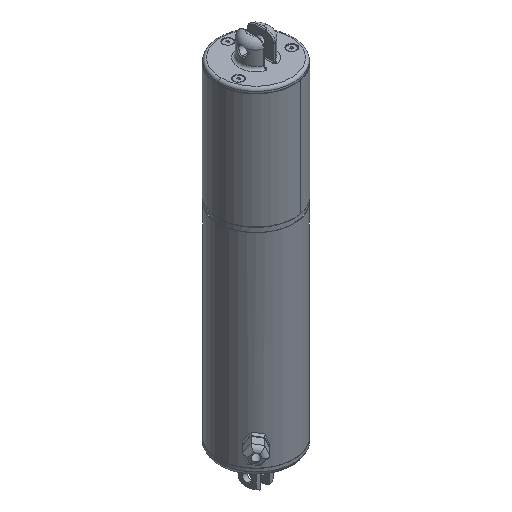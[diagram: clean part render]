
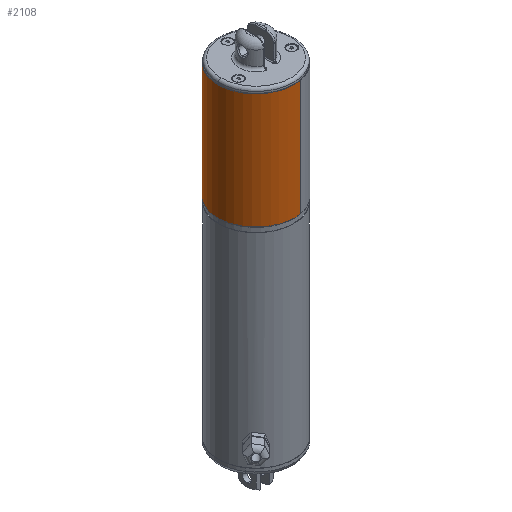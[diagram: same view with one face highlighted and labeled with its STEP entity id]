
A CAD part, isometric view. The second image highlights one B-rep face of the part: STEP entity #2108.
In plain terms, the highlighted cylindrical face has radius 43 mm (diameter 86 mm), a partial arc.
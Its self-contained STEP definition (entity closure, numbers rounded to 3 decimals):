
#25 = EDGE_CURVE ( 'NONE', #1930, #6028, #3221, .T. ) ;
#43 = EDGE_CURVE ( 'NONE', #168, #6028, #3286, .T. ) ;
#127 = CARTESIAN_POINT ( 'NONE',  ( 0., 0., 148.9 ) ) ;
#154 = AXIS2_PLACEMENT_3D ( 'NONE', #348, #2201, #763 ) ;
#168 = VERTEX_POINT ( 'NONE', #3400 ) ;
#270 = CARTESIAN_POINT ( 'NONE',  ( -8.077, 42.235, 8.4 ) ) ;
#348 = CARTESIAN_POINT ( 'NONE',  ( 0., 0., 138.9 ) ) ;
#436 = CARTESIAN_POINT ( 'NONE',  ( 8.077, -42.235, 148.9 ) ) ;
#506 = CARTESIAN_POINT ( 'NONE',  ( 8.077, -42.235, 8.4 ) ) ;
#763 = DIRECTION ( 'NONE',  ( -0.188, 0.982, 0. ) ) ;
#779 = LINE ( 'NONE', #4528, #5998 ) ;
#890 = VERTEX_POINT ( 'NONE', #270 ) ;
#920 = CIRCLE ( 'NONE', #1199, 43. ) ;
#965 = EDGE_LOOP ( 'NONE', ( #5364, #4216, #5692, #1926 ) ) ;
#973 = CARTESIAN_POINT ( 'NONE',  ( 0., 0., 8.4 ) ) ;
#1199 = AXIS2_PLACEMENT_3D ( 'NONE', #973, #2320, #4201 ) ;
#1552 = DIRECTION ( 'NONE',  ( -0.188, 0.982, 0. ) ) ;
#1699 = VECTOR ( 'NONE', #1706, 1000. ) ;
#1706 = DIRECTION ( 'NONE',  ( 0., 0., 1. ) ) ;
#1821 = EDGE_CURVE ( 'NONE', #890, #1930, #920, .T. ) ;
#1926 = ORIENTED_EDGE ( 'NONE', *, *, #3215, .F. ) ;
#1930 = VERTEX_POINT ( 'NONE', #506 ) ;
#2015 = DIRECTION ( 'NONE',  ( 0., 0., 1. ) ) ;
#2108 = ADVANCED_FACE ( 'NONE', ( #5366 ), #4907, .T. ) ;
#2201 = DIRECTION ( 'NONE',  ( 0., 0., 1. ) ) ;
#2238 = DIRECTION ( 'NONE',  ( 0., 0., 1. ) ) ;
#2320 = DIRECTION ( 'NONE',  ( 0., 0., 1. ) ) ;
#3215 = EDGE_CURVE ( 'NONE', #890, #168, #779, .T. ) ;
#3221 = LINE ( 'NONE', #436, #1699 ) ;
#3286 = CIRCLE ( 'NONE', #154, 43. ) ;
#3400 = CARTESIAN_POINT ( 'NONE',  ( -8.077, 42.235, 138.9 ) ) ;
#4162 = AXIS2_PLACEMENT_3D ( 'NONE', #127, #2015, #1552 ) ;
#4201 = DIRECTION ( 'NONE',  ( -0.188, 0.982, 0. ) ) ;
#4216 = ORIENTED_EDGE ( 'NONE', *, *, #25, .T. ) ;
#4525 = CARTESIAN_POINT ( 'NONE',  ( 8.077, -42.235, 138.9 ) ) ;
#4528 = CARTESIAN_POINT ( 'NONE',  ( -8.077, 42.235, 148.9 ) ) ;
#4907 = CYLINDRICAL_SURFACE ( 'NONE', #4162, 43. ) ;
#5364 = ORIENTED_EDGE ( 'NONE', *, *, #1821, .T. ) ;
#5366 = FACE_OUTER_BOUND ( 'NONE', #965, .T. ) ;
#5692 = ORIENTED_EDGE ( 'NONE', *, *, #43, .F. ) ;
#5998 = VECTOR ( 'NONE', #2238, 1000. ) ;
#6028 = VERTEX_POINT ( 'NONE', #4525 ) ;
